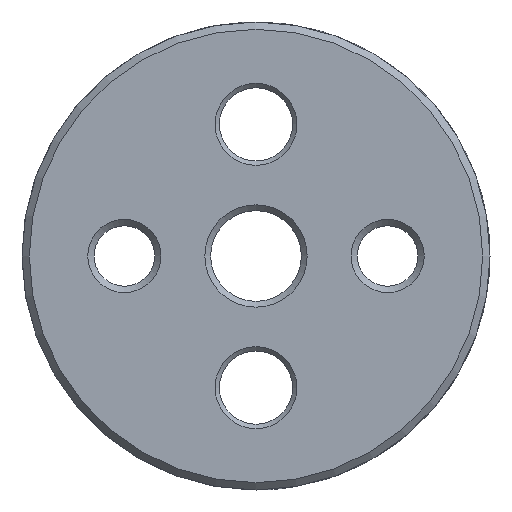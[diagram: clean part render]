
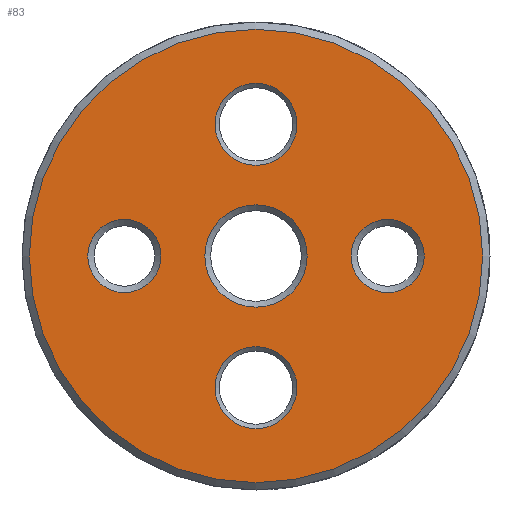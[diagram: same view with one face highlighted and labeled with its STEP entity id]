
A CAD part, front view. The second image highlights one B-rep face of the part: STEP entity #83.
In plain terms, the highlighted planar face has unit normal (0, -1, 0).
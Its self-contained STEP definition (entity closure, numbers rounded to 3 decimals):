
#83 = ADVANCED_FACE( '', ( #130, #131, #132, #133, #134, #135 ), #136, .F. );
#130 = FACE_BOUND( '', #220, .T. );
#131 = FACE_BOUND( '', #221, .T. );
#132 = FACE_BOUND( '', #222, .T. );
#133 = FACE_BOUND( '', #223, .T. );
#134 = FACE_BOUND( '', #224, .T. );
#135 = FACE_OUTER_BOUND( '', #225, .T. );
#136 = PLANE( '', #226 );
#220 = EDGE_LOOP( '', ( #357 ) );
#221 = EDGE_LOOP( '', ( #358 ) );
#222 = EDGE_LOOP( '', ( #359 ) );
#223 = EDGE_LOOP( '', ( #360 ) );
#224 = EDGE_LOOP( '', ( #361 ) );
#225 = EDGE_LOOP( '', ( #362 ) );
#226 = AXIS2_PLACEMENT_3D( '', #363, #364, #365 );
#357 = ORIENTED_EDGE( '', *, *, #527, .F. );
#358 = ORIENTED_EDGE( '', *, *, #528, .F. );
#359 = ORIENTED_EDGE( '', *, *, #529, .F. );
#360 = ORIENTED_EDGE( '', *, *, #530, .F. );
#361 = ORIENTED_EDGE( '', *, *, #531, .F. );
#362 = ORIENTED_EDGE( '', *, *, #532, .T. );
#363 = CARTESIAN_POINT( '', ( 15.5, 0., 0. ) );
#364 = DIRECTION( '', ( 0., 1., 0. ) );
#365 = DIRECTION( '', ( 0., 0., 1. ) );
#527 = EDGE_CURVE( '', #611, #611, #612, .T. );
#528 = EDGE_CURVE( '', #613, #613, #614, .F. );
#529 = EDGE_CURVE( '', #615, #615, #616, .T. );
#530 = EDGE_CURVE( '', #617, #617, #618, .T. );
#531 = EDGE_CURVE( '', #619, #619, #620, .T. );
#532 = EDGE_CURVE( '', #621, #621, #622, .T. );
#611 = VERTEX_POINT( '', #818 );
#612 = CIRCLE( '', #819, 3.5 );
#613 = VERTEX_POINT( '', #820 );
#614 = CIRCLE( '', #821, 2.5 );
#615 = VERTEX_POINT( '', #822 );
#616 = CIRCLE( '', #823, 2.8 );
#617 = VERTEX_POINT( '', #824 );
#618 = CIRCLE( '', #825, 2.8 );
#619 = VERTEX_POINT( '', #826 );
#620 = CIRCLE( '', #827, 2.5 );
#621 = VERTEX_POINT( '', #828 );
#622 = CIRCLE( '', #829, 15.5 );
#818 = CARTESIAN_POINT( '', ( 0., 0., -3.5 ) );
#819 = AXIS2_PLACEMENT_3D( '', #931, #932, #933 );
#820 = CARTESIAN_POINT( '', ( 9., 0., 2.5 ) );
#821 = AXIS2_PLACEMENT_3D( '', #934, #935, #936 );
#822 = CARTESIAN_POINT( '', ( 0., 0., 6.2 ) );
#823 = AXIS2_PLACEMENT_3D( '', #937, #938, #939 );
#824 = CARTESIAN_POINT( '', ( 0., 0., -11.8 ) );
#825 = AXIS2_PLACEMENT_3D( '', #940, #941, #942 );
#826 = CARTESIAN_POINT( '', ( -9., 0., -2.5 ) );
#827 = AXIS2_PLACEMENT_3D( '', #943, #944, #945 );
#828 = CARTESIAN_POINT( '', ( 0., 0., -15.5 ) );
#829 = AXIS2_PLACEMENT_3D( '', #946, #947, #948 );
#931 = CARTESIAN_POINT( '', ( 0., 0., 0. ) );
#932 = DIRECTION( '', ( 0., -1., 0. ) );
#933 = DIRECTION( '', ( 0., 0., -1. ) );
#934 = CARTESIAN_POINT( '', ( 9., 0., 0. ) );
#935 = DIRECTION( '', ( 0., 1., 0. ) );
#936 = DIRECTION( '', ( 0., 0., 1. ) );
#937 = CARTESIAN_POINT( '', ( 0., 0., 9. ) );
#938 = DIRECTION( '', ( 0., -1., 0. ) );
#939 = DIRECTION( '', ( 0., 0., -1. ) );
#940 = CARTESIAN_POINT( '', ( 0., 0., -9. ) );
#941 = DIRECTION( '', ( 0., -1., 0. ) );
#942 = DIRECTION( '', ( 0., 0., -1. ) );
#943 = CARTESIAN_POINT( '', ( -9., 0., 0. ) );
#944 = DIRECTION( '', ( 0., -1., 0. ) );
#945 = DIRECTION( '', ( 0., 0., -1. ) );
#946 = CARTESIAN_POINT( '', ( 0., 0., 0. ) );
#947 = DIRECTION( '', ( 0., -1., 0. ) );
#948 = DIRECTION( '', ( 0., 0., -1. ) );
